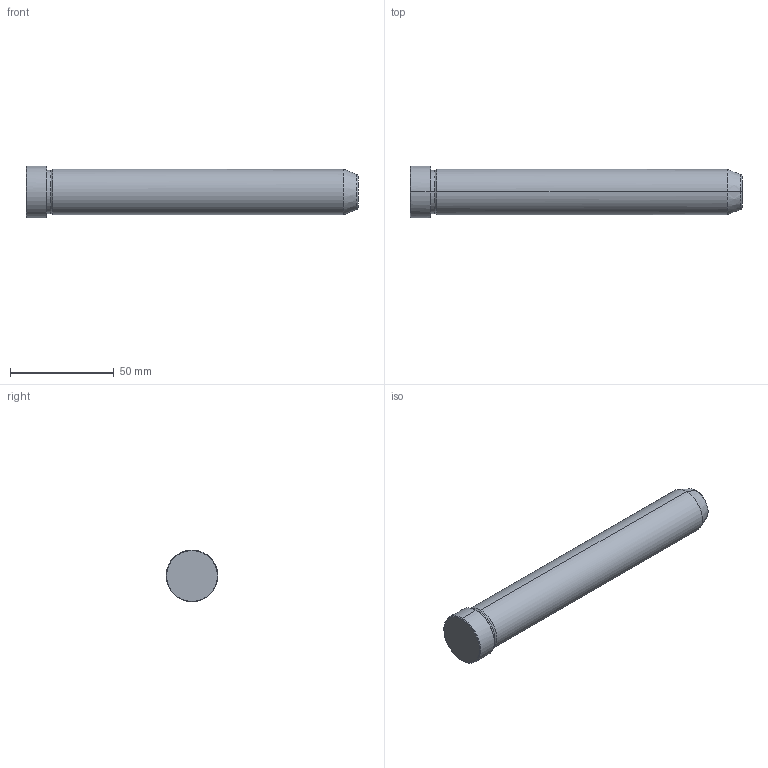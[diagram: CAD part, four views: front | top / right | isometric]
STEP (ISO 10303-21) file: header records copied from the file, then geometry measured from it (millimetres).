
FILE_DESCRIPTION(('CATIA V5 STEP Exchange'),'2;1');
FILE_NAME('C:\Users\Utente\Desktop\IO LAVORO\3D X SITO CF\X SITO\PLASTICA\549\549-22X160.stp','2021-12-13T12:58:10+00:00',('none'),('none'),'CATIA Version 5 Release 20 GA (IN-10)','CATIA V5 STEP AP203','none');
FILE_SCHEMA(('CONFIG_CONTROL_DESIGN'));
Length unit declared in the file: millimetre
Products named in the file (1): 549-22X160
Bounding box: 160 x 25 x 25 mm (x, y, z)
Volume: 61209.7 mm3; surface area: 11933.8 mm2
Topology: 1 solids, 1 shells, 19 faces, 56 edges, 40 vertices
Faces by surface type: cone 8, cylinder 6, plane 3, torus 2
Entity records: 736 total; most frequent: CARTESIAN_POINT 192, ORIENTED_EDGE 112, DIRECTION 86, EDGE_CURVE 56, AXIS2_PLACEMENT_3D 54, VERTEX_POINT 40, CIRCLE 34, EDGE_LOOP 20
